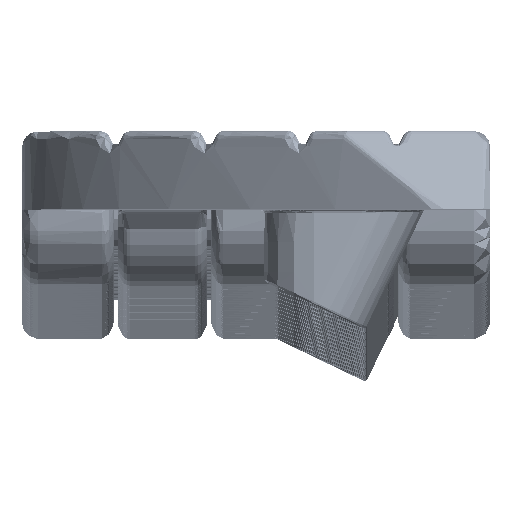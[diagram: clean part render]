
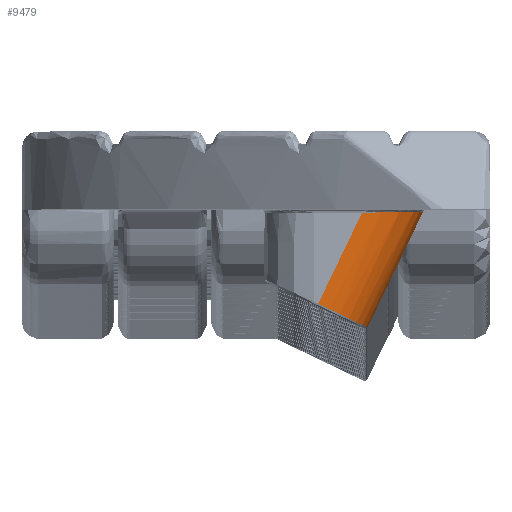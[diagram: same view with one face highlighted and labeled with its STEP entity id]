
A CAD part, top view. The second image highlights one B-rep face of the part: STEP entity #9479.
In plain terms, the highlighted cylindrical face has radius 3.5 mm (diameter 7 mm), a partial arc.
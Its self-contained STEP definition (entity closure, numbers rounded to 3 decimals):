
#329 = DIRECTION ( 'NONE',  ( -0.434, -0.901, 0. ) ) ;
#338 = AXIS2_PLACEMENT_3D ( 'NONE', #16779, #41215, #19349 ) ;
#622 = DIRECTION ( 'NONE',  ( 0.901, -0.434, 0. ) ) ;
#2578 = VERTEX_POINT ( 'NONE', #6664 ) ;
#3708 = EDGE_CURVE ( 'NONE', #11476, #2578, #24207, .T. ) ;
#5734 = VERTEX_POINT ( 'NONE', #20015 ) ;
#6310 = AXIS2_PLACEMENT_3D ( 'NONE', #22528, #18985, #622 ) ;
#6664 = CARTESIAN_POINT ( 'NONE',  ( 8.209, 5.2, -52. ) ) ;
#7955 = ORIENTED_EDGE ( 'NONE', *, *, #10180, .T. ) ;
#8219 = VECTOR ( 'NONE', #46611, 1000. ) ;
#8472 = ORIENTED_EDGE ( 'NONE', *, *, #20251, .F. ) ;
#9479 = ADVANCED_FACE ( 'NONE', ( #23438 ), #19985, .T. ) ;
#10180 = EDGE_CURVE ( 'NONE', #33920, #31946, #19651, .T. ) ;
#11476 = VERTEX_POINT ( 'NONE', #29948 ) ;
#12460 = EDGE_CURVE ( 'NONE', #2578, #33920, #24049, .T. ) ;
#14861 = CARTESIAN_POINT ( 'NONE',  ( 12.449, 14.011, -45. ) ) ;
#15987 = CARTESIAN_POINT ( 'NONE',  ( 8.209, 5.2, -52. ) ) ;
#16779 = CARTESIAN_POINT ( 'NONE',  ( 11.01, 11.021, -48.5 ) ) ;
#18985 = DIRECTION ( 'NONE',  ( -0.434, -0.901, 0. ) ) ;
#19349 = DIRECTION ( 'NONE',  ( 0.901, -0.434, 0. ) ) ;
#19651 =( BOUNDED_CURVE ( )  B_SPLINE_CURVE ( 3, ( #41419, #30256, #37641, #30541 ),
 .UNSPECIFIED., .F., .F. ) 
 B_SPLINE_CURVE_WITH_KNOTS ( ( 4, 4 ),
 ( 0., 1.571 ),
 .UNSPECIFIED. ) 
 CURVE ( )  GEOMETRIC_REPRESENTATION_ITEM ( )  RATIONAL_B_SPLINE_CURVE ( ( 1., 0.805, 0.805, 1. ) ) 
 REPRESENTATION_ITEM ( '' )  );
#19804 = CIRCLE ( 'NONE', #338, 3.5 ) ;
#19839 = CARTESIAN_POINT ( 'NONE',  ( 4.283, 5.113, -48.5 ) ) ;
#19985 = CYLINDRICAL_SURFACE ( 'NONE', #6310, 3.5 ) ;
#20015 = CARTESIAN_POINT ( 'NONE',  ( 11.01, 11.021, -45. ) ) ;
#20251 = EDGE_CURVE ( 'NONE', #5734, #31946, #24636, .T. ) ;
#21572 = CARTESIAN_POINT ( 'NONE',  ( 12.449, 14.011, -52. ) ) ;
#22528 = CARTESIAN_POINT ( 'NONE',  ( 11.314, 11.652, -48.5 ) ) ;
#23067 = CARTESIAN_POINT ( 'NONE',  ( 4.283, 5.113, -50.55 ) ) ;
#23438 = FACE_OUTER_BOUND ( 'NONE', #38712, .T. ) ;
#23687 = CARTESIAN_POINT ( 'NONE',  ( 4.283, 5.113, -48.5 ) ) ;
#24049 =( BOUNDED_CURVE ( )  B_SPLINE_CURVE ( 3, ( #15987, #27003, #23067, #19839 ),
 .UNSPECIFIED., .F., .F. ) 
 B_SPLINE_CURVE_WITH_KNOTS ( ( 4, 4 ),
 ( 4.712, 6.283 ),
 .UNSPECIFIED. ) 
 CURVE ( )  GEOMETRIC_REPRESENTATION_ITEM ( )  RATIONAL_B_SPLINE_CURVE ( ( 1., 0.805, 0.805, 1. ) ) 
 REPRESENTATION_ITEM ( '' )  );
#24207 = LINE ( 'NONE', #21572, #8219 ) ;
#24636 = LINE ( 'NONE', #14861, #26310 ) ;
#26310 = VECTOR ( 'NONE', #329, 1000. ) ;
#27003 = CARTESIAN_POINT ( 'NONE',  ( 5.909, 5.149, -52. ) ) ;
#29948 = CARTESIAN_POINT ( 'NONE',  ( 11.01, 11.021, -52. ) ) ;
#30256 = CARTESIAN_POINT ( 'NONE',  ( 4.283, 5.113, -46.45 ) ) ;
#30541 = CARTESIAN_POINT ( 'NONE',  ( 8.209, 5.2, -45. ) ) ;
#30637 = CARTESIAN_POINT ( 'NONE',  ( 8.209, 5.2, -45. ) ) ;
#31946 = VERTEX_POINT ( 'NONE', #30637 ) ;
#33920 = VERTEX_POINT ( 'NONE', #23687 ) ;
#37641 = CARTESIAN_POINT ( 'NONE',  ( 5.909, 5.149, -45. ) ) ;
#38712 = EDGE_LOOP ( 'NONE', ( #40285, #45718, #7955, #8472, #38838 ) ) ;
#38838 = ORIENTED_EDGE ( 'NONE', *, *, #39085, .T. ) ;
#39085 = EDGE_CURVE ( 'NONE', #5734, #11476, #19804, .T. ) ;
#40285 = ORIENTED_EDGE ( 'NONE', *, *, #3708, .T. ) ;
#41215 = DIRECTION ( 'NONE',  ( -0.434, -0.901, 0. ) ) ;
#41419 = CARTESIAN_POINT ( 'NONE',  ( 4.283, 5.113, -48.5 ) ) ;
#45718 = ORIENTED_EDGE ( 'NONE', *, *, #12460, .T. ) ;
#46611 = DIRECTION ( 'NONE',  ( -0.434, -0.901, 0. ) ) ;
